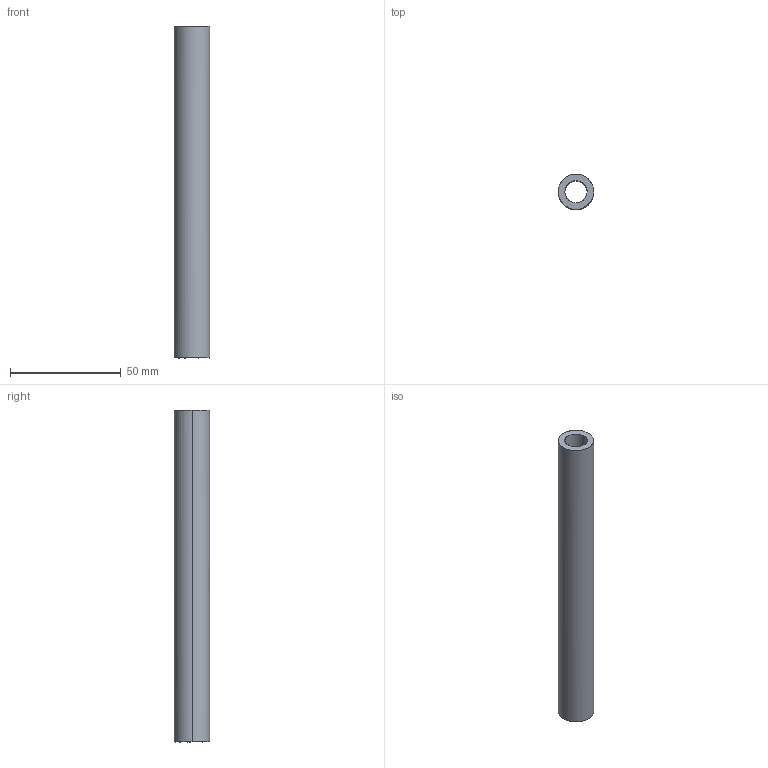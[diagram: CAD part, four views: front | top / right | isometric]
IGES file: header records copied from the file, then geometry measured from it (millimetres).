
Global section: file name: E:\UnigraphicsGraphicData\MISUMI_PRESS-PARTS\IGES\3d_sb16-150_00135_r00.igs; native system: NX V5.0; preprocessor: UGS NX IGES V5.0; author: MISUMI; date: 20110105.162424; units: millimetre
Bounding box: 16 x 16 x 150 mm (x, y, z)
Surface area: 12498 mm2 (no closed solid volume)
Topology: 0 solids, 0 shells, 6 faces, 48 edges, 48 vertices
Faces by surface type: bspline 6
